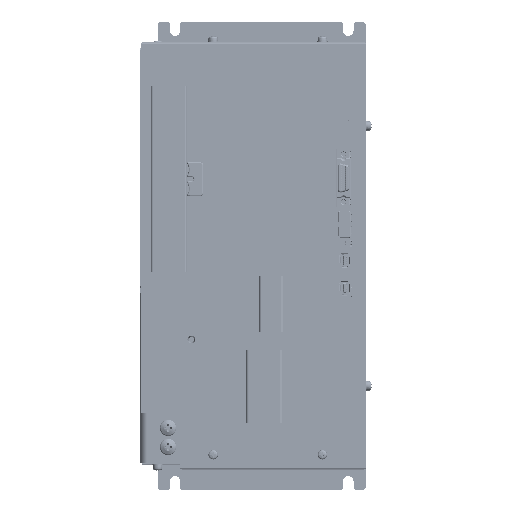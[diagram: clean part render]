
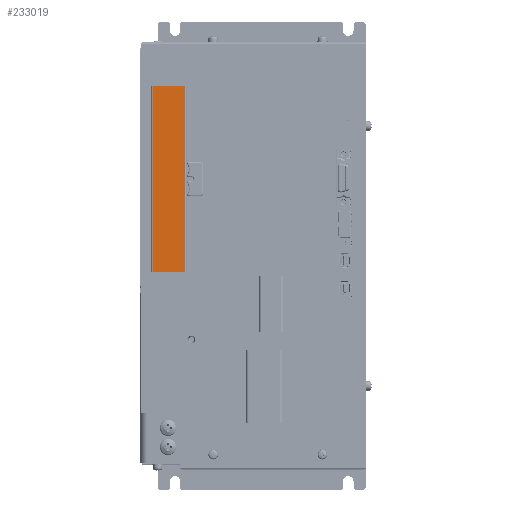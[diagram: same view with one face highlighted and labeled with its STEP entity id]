
A CAD part, top view. The second image highlights one B-rep face of the part: STEP entity #233019.
In plain terms, the highlighted planar face has unit normal (0, 0, 1).
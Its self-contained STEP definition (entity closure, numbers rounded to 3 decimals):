
#15389 = EDGE_CURVE ( 'NONE', #558597, #487369, #520383, .T. ) ;
#34014 = CARTESIAN_POINT ( 'NONE',  ( -49.829, 107.754, 475.8 ) ) ;
#95327 = DIRECTION ( 'NONE',  ( 1., 0., 0. ) ) ;
#120886 = DIRECTION ( 'NONE',  ( 0., -1., 0. ) ) ;
#123555 = PLANE ( 'NONE',  #179944 ) ;
#124431 = VECTOR ( 'NONE', #466519, 1000. ) ;
#141891 = ORIENTED_EDGE ( 'NONE', *, *, #474468, .F. ) ;
#143717 = FACE_OUTER_BOUND ( 'NONE', #182519, .T. ) ;
#179944 = AXIS2_PLACEMENT_3D ( 'NONE', #34014, #449252, #312089 ) ;
#182519 = EDGE_LOOP ( 'NONE', ( #259634, #330697, #141891, #371425 ) ) ;
#188730 = CARTESIAN_POINT ( 'NONE',  ( -67.929, 107.754, 475.8 ) ) ;
#188950 = VERTEX_POINT ( 'NONE', #436153 ) ;
#209090 = CARTESIAN_POINT ( 'NONE',  ( -67.929, 107.754, 475.8 ) ) ;
#230302 = EDGE_CURVE ( 'NONE', #445363, #188950, #515752, .T. ) ;
#231946 = CARTESIAN_POINT ( 'NONE',  ( -67.929, 107.754, 475.8 ) ) ;
#233019 = ADVANCED_FACE ( 'NONE', ( #143717 ), #123555, .F. ) ;
#259634 = ORIENTED_EDGE ( 'NONE', *, *, #439332, .T. ) ;
#312089 = DIRECTION ( 'NONE',  ( -1., 0., 0. ) ) ;
#330697 = ORIENTED_EDGE ( 'NONE', *, *, #15389, .F. ) ;
#343139 = CARTESIAN_POINT ( 'NONE',  ( -49.829, 0.354, 475.8 ) ) ;
#349648 = VECTOR ( 'NONE', #120886, 1000. ) ;
#353187 = LINE ( 'NONE', #513722, #517138 ) ;
#371425 = ORIENTED_EDGE ( 'NONE', *, *, #230302, .T. ) ;
#376376 = DIRECTION ( 'NONE',  ( 1., 0., 0. ) ) ;
#400988 = VECTOR ( 'NONE', #95327, 1000. ) ;
#436153 = CARTESIAN_POINT ( 'NONE',  ( -67.929, 0.354, 475.8 ) ) ;
#439332 = EDGE_CURVE ( 'NONE', #188950, #487369, #353187, .T. ) ;
#445363 = VERTEX_POINT ( 'NONE', #209090 ) ;
#449252 = DIRECTION ( 'NONE',  ( 0., 0., -1. ) ) ;
#466519 = DIRECTION ( 'NONE',  ( 0., -1., 0. ) ) ;
#474468 = EDGE_CURVE ( 'NONE', #445363, #558597, #557479, .T. ) ;
#481484 = CARTESIAN_POINT ( 'NONE',  ( -49.829, 107.754, 475.8 ) ) ;
#487369 = VERTEX_POINT ( 'NONE', #343139 ) ;
#513722 = CARTESIAN_POINT ( 'NONE',  ( -67.929, 0.354, 475.8 ) ) ;
#515752 = LINE ( 'NONE', #231946, #124431 ) ;
#517138 = VECTOR ( 'NONE', #376376, 1000. ) ;
#520383 = LINE ( 'NONE', #570272, #349648 ) ;
#557479 = LINE ( 'NONE', #188730, #400988 ) ;
#558597 = VERTEX_POINT ( 'NONE', #481484 ) ;
#570272 = CARTESIAN_POINT ( 'NONE',  ( -49.829, 107.754, 475.8 ) ) ;
